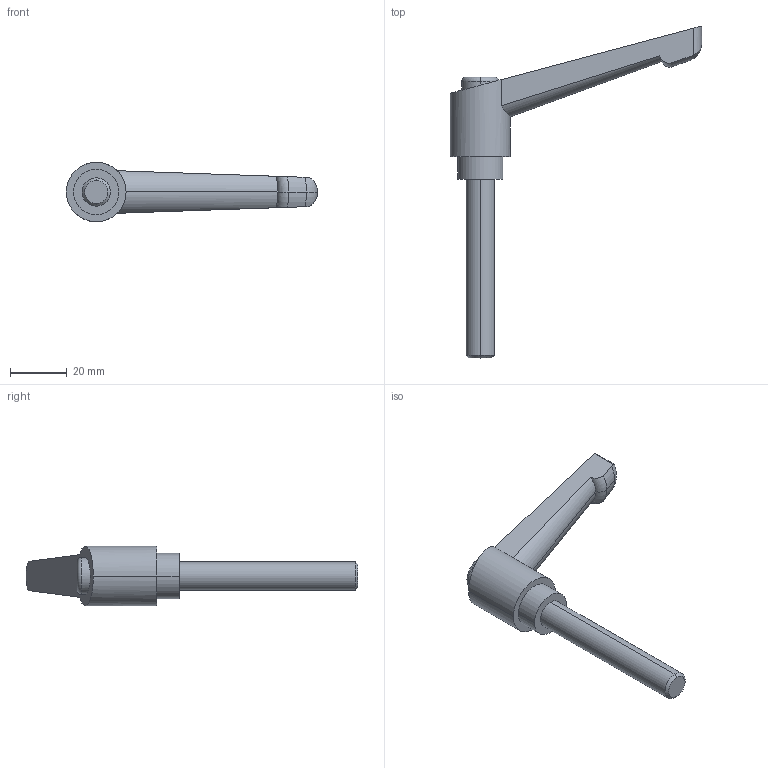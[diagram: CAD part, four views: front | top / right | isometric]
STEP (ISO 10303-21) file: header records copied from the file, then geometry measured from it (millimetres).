
FILE_DESCRIPTION (( 'STEP AP214' ), '1' );
FILE_NAME ('2.9034 Kiinnitysvipu M10 AL L63 ulkokierteellä.STEP', '2025-09-10T07:59:35', ( '' ), ( '' ), 'SwSTEP 2.0', 'SolidWorks 2025', '' );
FILE_SCHEMA (( 'AUTOMOTIVE_DESIGN' ));
Length unit declared in the file: millimetre
Products named in the file (1): 2.9034 Kiinnitysvipu M10 AL L63 ulkokierteellä
Bounding box: 88.5 x 117 x 21 mm (x, y, z)
Volume: 24417.6 mm3; surface area: 7788.9 mm2
Topology: 1 solids, 1 shells, 55 faces, 136 edges, 85 vertices
Faces by surface type: cylinder 31, cone 11, plane 7, torus 6
Entity records: 2328 total; most frequent: CARTESIAN_POINT 1109, ORIENTED_EDGE 268, DIRECTION 216, EDGE_CURVE 134, AXIS2_PLACEMENT_3D 89, VERTEX_POINT 85, B_SPLINE_CURVE_WITH_KNOTS 63, EDGE_LOOP 59
